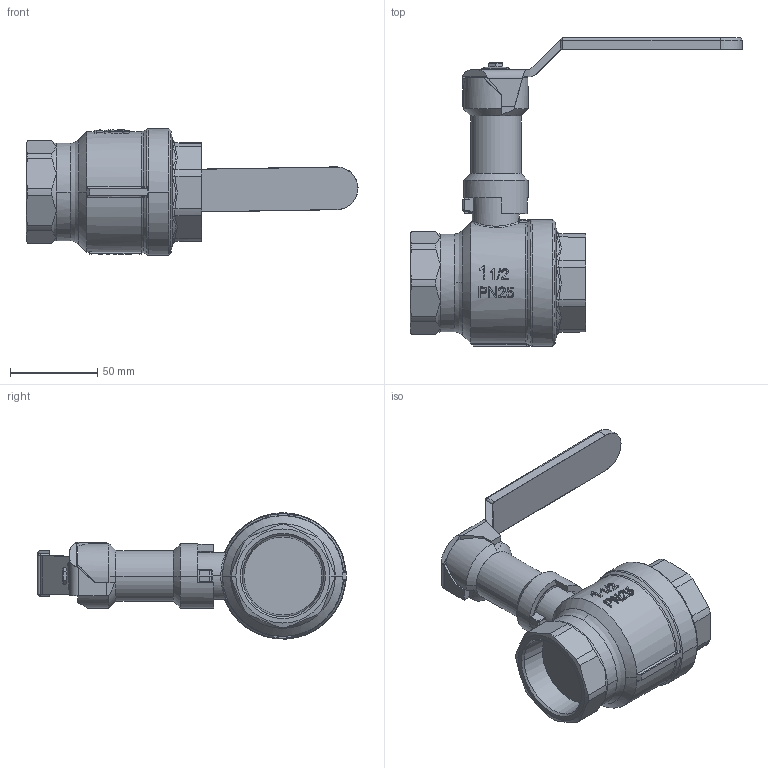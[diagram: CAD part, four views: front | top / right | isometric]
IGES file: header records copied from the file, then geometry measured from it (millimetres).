
Global section: file name: No Iges File Name specified; native system: AutoDesk Inventor R12.0; preprocessor: AutoDesk Inventor Iges Exporter R12.0; date: 20110214.104124; units: millimetre
Bounding box: 190.53 x 176.84 x 72.41 mm (x, y, z)
Volume: 356242.5 mm3; surface area: 60974.7 mm2
Topology: 2 solids, 2 shells, 1331 faces, 3674 edges, 2395 vertices
Faces by surface type: plane 724, bspline 390, cylinder 85, cone 70, revolution 49, torus 11, sphere 2
